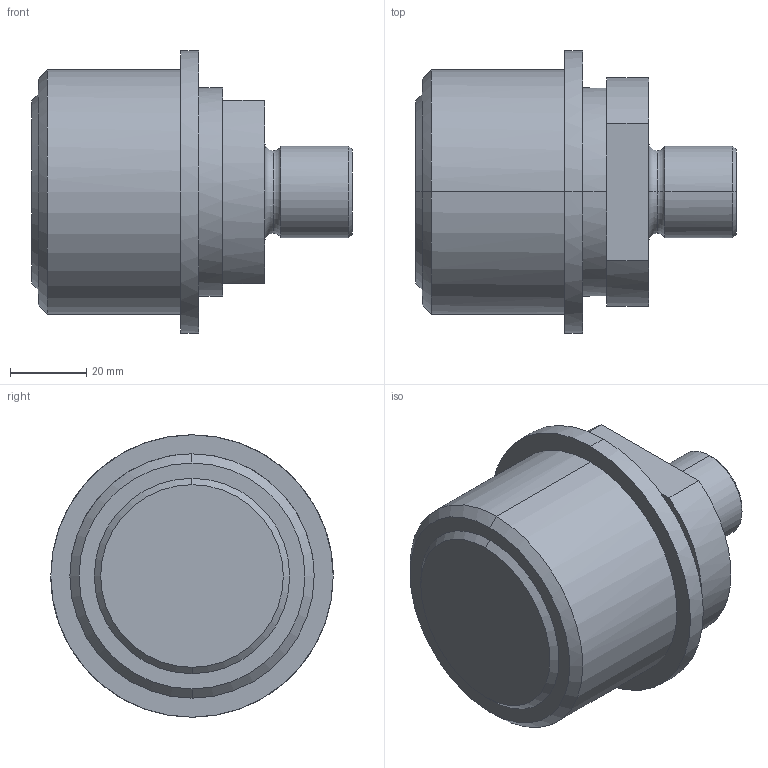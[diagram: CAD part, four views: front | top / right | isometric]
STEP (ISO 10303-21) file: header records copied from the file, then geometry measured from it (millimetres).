
FILE_DESCRIPTION(('CATIA V5 STEP Exchange'),'2;1');
FILE_NAME('C:\Users\Utente\Desktop\IO LAVORO\3D X SITO CF\X SITO\PLASTICA\AGS\AGS3422M24.stp','2021-02-21T19:48:54+00:00',('none'),('none'),'CATIA Version 5 Release 20 GA (IN-10)','CATIA V5 STEP AP203','none');
FILE_SCHEMA(('CONFIG_CONTROL_DESIGN'));
Length unit declared in the file: millimetre
Products named in the file (1): AGS3422M24
Bounding box: 84 x 74 x 74 mm (x, y, z)
Volume: 195705.6 mm3; surface area: 22447.7 mm2
Topology: 1 solids, 1 shells, 32 faces, 90 edges, 64 vertices
Faces by surface type: plane 12, cylinder 10, cone 6, torus 4
Entity records: 1204 total; most frequent: CARTESIAN_POINT 349, ORIENTED_EDGE 180, DIRECTION 139, EDGE_CURVE 90, AXIS2_PLACEMENT_3D 82, VERTEX_POINT 64, CIRCLE 49, EDGE_LOOP 36
